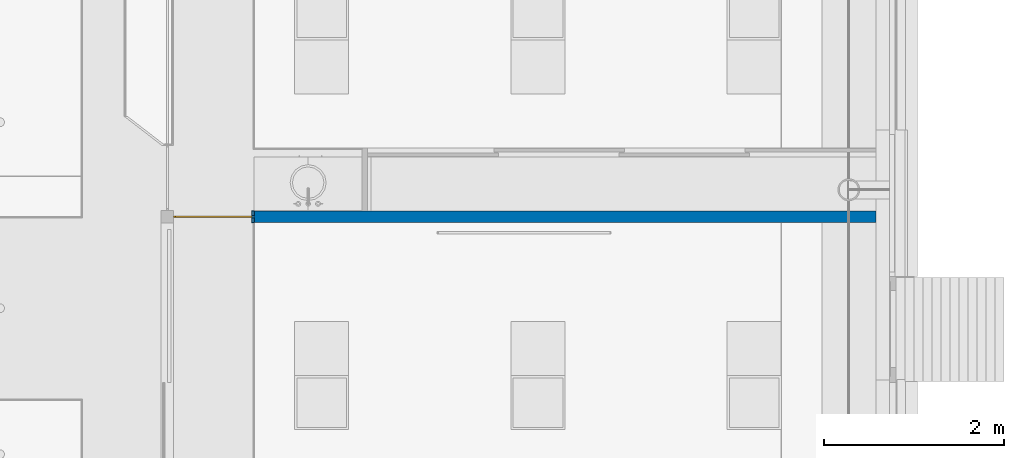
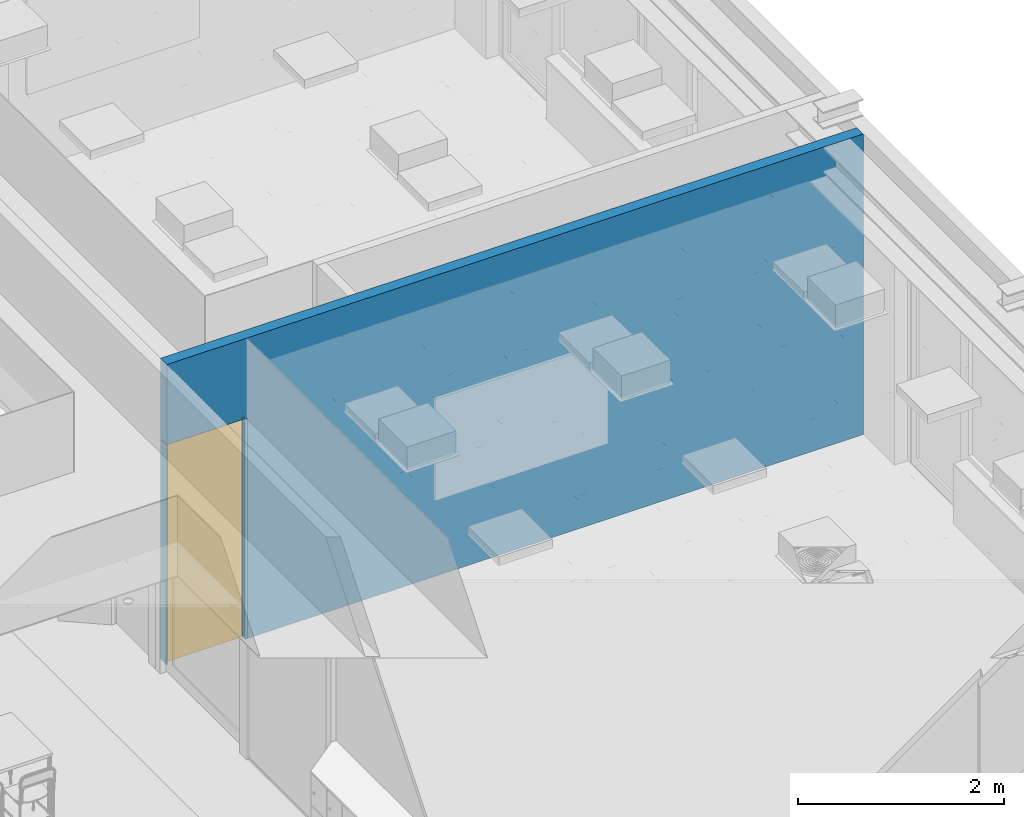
# One storey, part 63 of 347: 2 building element parts, 1 wall, 1 window, 2 openings, 1 element without a shape of its own.
"""IFC2X3 building model written with IfcOpenShell, lengths in millimetres."""

import ifcopenshell
import ifcopenshell.guid

model = None  # the IFC model being written
_history = None  # IfcOwnerHistory: only IFC2X3 demands one
_inside = {}  # id of a spatial element -> (the spatial element, [elements in it])
_under = {}  # id of a project, library or spatial element -> (it, [spatial elements below it])
_declared = {}  # id of a project -> (the project, [libraries it declares])
_typed = {}  # id of a type object -> (the type object, [elements of that type])
_made_of = {}  # id of a material, layer set ... -> (it, [elements and type objects made of it])


def new_model(schema):
    """Start an empty IFC model of exactly this schema.

    Asked for "IFC4X3", IfcOpenShell would pick the latest addendum, in which some entities
    have other attributes; the version numbers below select the first issue.
    IFC2X3 requires an IfcOwnerHistory on every rooted entity: one is made here for all.
    """
    global model, _history
    if schema == "IFC4X3":
        model = ifcopenshell.file(schema_version=(4, 3, 0, 0))
    else:
        model = ifcopenshell.file(schema=schema)
    _inside.clear()
    _under.clear()
    _declared.clear()
    _typed.clear()
    _made_of.clear()
    _history = None
    if model.schema == "IFC2X3":
        org = make("IfcOrganization", Name="unknown")
        user = make(
            "IfcPersonAndOrganization",
            ThePerson=make("IfcPerson", FamilyName="unknown"),
            TheOrganization=org,
        )
        app = make(
            "IfcApplication",
            ApplicationDeveloper=org,
            Version="unknown",
            ApplicationFullName="unknown",
            ApplicationIdentifier="unknown",
        )
        _history = make(
            "IfcOwnerHistory",
            OwningUser=user,
            OwningApplication=app,
            ChangeAction="ADDED",
            CreationDate=0,
        )
    return model


def make(cls, **values):
    """One entity of the class cls with the attributes given. An attribute that is None is left unset."""
    return model.create_entity(
        cls, **{name: value for name, value in values.items() if value is not None}
    )


def entity(cls, *values):
    """Any entity or typed value of the class cls, its attributes in the order of the schema. None: left unset."""
    e = model.create_entity(cls)
    for i, value in enumerate(values):
        if value is not None:
            e[i] = value
    return e


def rooted(cls, **values):
    """An entity with a GlobalId (a new one), such as an element, a storey or a relation."""
    return make(cls, GlobalId=ifcopenshell.guid.new(), OwnerHistory=_history, **values)


def si_unit(unit_type, name, prefix=None):
    """IfcSIUnit, for example si_unit("LENGTHUNIT", "METRE", prefix="MILLI")."""
    return make("IfcSIUnit", UnitType=unit_type, Prefix=prefix, Name=name)


def converted_unit(unit_type, name, factor, base, dimensions=None, offset=None):
    """IfcConversionBasedUnit, such as the inch: factor (a typed value) times the base unit."""
    return make(
        "IfcConversionBasedUnit"
        if offset is None
        else "IfcConversionBasedUnitWithOffset",
        ConversionOffset=offset,
        Dimensions=None
        if dimensions is None
        else entity("IfcDimensionalExponents", *dimensions),
        UnitType=unit_type,
        Name=name,
        ConversionFactor=make(
            "IfcMeasureWithUnit", ValueComponent=factor, UnitComponent=base
        ),
    )


def derived_unit(unit_type, elements):
    """IfcDerivedUnit: a product of units, each with its exponent."""
    return make(
        "IfcDerivedUnit",
        Elements=[
            make("IfcDerivedUnitElement", Unit=unit, Exponent=power)
            for unit, power in elements
        ],
        UnitType=unit_type,
    )


def money_unit(currency):
    """IfcMonetaryUnit."""
    return make("IfcMonetaryUnit", Currency=currency)


def assignment(units):
    """IfcUnitAssignment: the units of a project."""
    return None if units is None else make("IfcUnitAssignment", Units=units)


def point(xyz):
    """IfcCartesianPoint."""
    return None if xyz is None else make("IfcCartesianPoint", Coordinates=xyz)


def direction(xyz):
    """IfcDirection."""
    return None if xyz is None else make("IfcDirection", DirectionRatios=xyz)


def frame(location, z_axis=None, x_axis=None):
    """IfcAxis2Placement3D, a coordinate frame: its origin and axes. An axis left out is left unset."""
    return make(
        "IfcAxis2Placement3D",
        Location=point(location),
        Axis=direction(z_axis),
        RefDirection=direction(x_axis),
    )


def origin_with_axes():
    """The frame at (0, 0, 0) with the z axis (0, 0, 1) and the x axis (1, 0, 0) written out."""
    return frame((0.0, 0.0, 0.0), z_axis=(0.0, 0.0, 1.0), x_axis=(1.0, 0.0, 0.0))


def place(relative_to, where):
    """IfcLocalPlacement: puts the frame where relative to a parent placement (None: the world)."""
    return make(
        "IfcLocalPlacement", PlacementRelTo=relative_to, RelativePlacement=where
    )


def context(
    kind, dimensions, precision=None, world=None, true_north=None, identifier=None
):
    """IfcGeometricRepresentationContext, for example the 3D "Model" context."""
    return make(
        "IfcGeometricRepresentationContext",
        ContextIdentifier=identifier,
        ContextType=kind,
        CoordinateSpaceDimension=dimensions,
        Precision=precision,
        WorldCoordinateSystem=world,
        TrueNorth=true_north,
    )


def subcontext(parent, identifier, kind, view, scale=None):
    """IfcGeometricRepresentationSubContext, for example "Body" below "Model"."""
    return make(
        "IfcGeometricRepresentationSubContext",
        ContextIdentifier=identifier,
        ContextType=kind,
        ParentContext=parent,
        TargetScale=scale,
        TargetView=view,
    )


def project(units=None, contexts=None):
    """IfcProject with its units and contexts."""
    return rooted(
        "IfcProject",
        Name="project",
        RepresentationContexts=contexts,
        UnitsInContext=assignment(units),
    )


def spatial(cls, under=None, at=None, **own):
    """A site, building, storey or space (cls), placed at a placement, below another one or the project."""
    s = rooted(cls, ObjectPlacement=at, **own)
    if under is not None:
        _under.setdefault(under.id(), (under, []))[1].append(s)
    return s


def faces_of(points, faces, orient=None, outer=None):
    """IfcFace entities. A face is a list of loops; a loop is a list of indices into points, from 0.

    orient and outer hold one flag for each loop. By default every Orientation is true, the
    first loop of a face is its IfcFaceOuterBound and the others are IfcFaceBound.
    """
    made = []
    for i, loops in enumerate(faces):
        bounds = []
        for j, loop in enumerate(loops):
            is_outer = j == 0 if outer is None else outer[i][j]
            bounds.append(
                make(
                    "IfcFaceOuterBound" if is_outer else "IfcFaceBound",
                    Bound=make("IfcPolyLoop", Polygon=[points[k] for k in loop]),
                    Orientation=True if orient is None else orient[i][j],
                )
            )
        made.append(make("IfcFace", Bounds=bounds))
    return made


def open_shell(faces, orient=None, outer=None):
    """The faces of one IfcOpenShell. surface_model builds it on its shared points."""
    return ("IfcOpenShell", faces, orient, outer)


def faceted_brep(points, faces, orient=None, outer=None, voids=None):
    """IfcFacetedBrep: a solid bounded by flat faces; with voids (closed shells), ...WithVoids."""
    shared = [point(p) for p in points]
    hull = make("IfcClosedShell", CfsFaces=faces_of(shared, faces, orient, outer))
    if voids is None:
        return make("IfcFacetedBrep", Outer=hull)
    return make(
        "IfcFacetedBrepWithVoids",
        Outer=hull,
        Voids=[
            make(cls, CfsFaces=faces_of(shared, fs, o, b)) for cls, fs, o, b in voids
        ],
    )


def surface_model(cls, points, shells):
    """IfcFaceBasedSurfaceModel or IfcShellBasedSurfaceModel (cls): surfaces that need not close."""
    shared = [point(p) for p in points]
    made = [make(c, CfsFaces=faces_of(shared, fs, o, b)) for c, fs, o, b in shells]
    if cls == "IfcFaceBasedSurfaceModel":
        return make(cls, FbsmFaces=made)
    return make(cls, SbsmBoundary=made)


def shape(context_of_items, identifier, shape_type, items):
    """IfcShapeRepresentation: the items that make up one representation, for example the "Body"."""
    return make(
        "IfcShapeRepresentation",
        ContextOfItems=context_of_items,
        RepresentationIdentifier=identifier,
        RepresentationType=shape_type,
        Items=items,
    )


def source(mapping_origin, context_of_items, identifier, shape_type, items):
    """IfcRepresentationMap: a shape defined once, which mapped items show again and again."""
    return make(
        "IfcRepresentationMap",
        MappingOrigin=mapping_origin,
        MappedRepresentation=shape(context_of_items, identifier, shape_type, items),
    )


def transform(
    local_origin,
    x_axis=None,
    y_axis=None,
    z_axis=None,
    scale=None,
    scale2=None,
    scale3=None,
    uniform=True,
):
    """IfcCartesianTransformationOperator3D, or its non-uniform kind. x_axis, y_axis, z_axis: its Axis1, 2, 3."""
    if uniform:
        return make(
            "IfcCartesianTransformationOperator3D",
            Axis1=direction(x_axis),
            Axis2=direction(y_axis),
            LocalOrigin=point(local_origin),
            Scale=scale,
            Axis3=direction(z_axis),
        )
    return make(
        "IfcCartesianTransformationOperator3DnonUniform",
        Axis1=direction(x_axis),
        Axis2=direction(y_axis),
        LocalOrigin=point(local_origin),
        Scale=scale,
        Axis3=direction(z_axis),
        Scale2=scale2,
        Scale3=scale3,
    )


def mapped(mapping_source, mapping_target):
    """IfcMappedItem: shows the shape of a source again, moved by a transform."""
    return make(
        "IfcMappedItem", MappingSource=mapping_source, MappingTarget=mapping_target
    )


def material(Name=None, Category=None):
    """IfcMaterial."""
    return make("IfcMaterial", Name=Name, Category=Category)


def made_of(thing, what):
    """Note that an element or type object is made of a material, layer set ...; save() writes the relation."""
    if what is not None:
        _made_of.setdefault(what.id(), (what, []))[1].append(thing)
    return thing


def type_object(cls, material=None, **own):
    """A type object (cls), such as IfcWallType, which elements share."""
    return made_of(rooted(cls, **own), material)


def type_shapes(of_type, sources):
    """Give a type object the sources (RepresentationMaps) that its elements show as mapped items."""
    of_type.RepresentationMaps = sources


def element(
    cls,
    number,
    at=None,
    inside=None,
    cuts=None,
    type_object=None,
    material=None,
    context=None,
    identifier="Body",
    shape_type=None,
    held_by="IfcProductDefinitionShape",
    body=None,
    shapes=None,
    **own,
):
    """One element of the class cls, such as IfcWall. Its Tag is "e" and its number.

    at: its placement. inside: the storey or other place that contains it. cuts: it is an
    opening in that element (IfcRelVoidsElement). A single representation is given by context,
    identifier, shape_type and body (its items); several are given by shapes. held_by: the class
    of the entity that holds the representations. save() writes the other relations.
    """
    e = rooted(cls, Tag="e%d" % number, ObjectPlacement=at, **own)
    if body is not None:
        shapes = [shape(context, identifier, shape_type, body)]
    if shapes is not None:
        e.Representation = make(held_by, Representations=shapes)
    if inside is not None:
        _inside.setdefault(inside.id(), (inside, []))[1].append(e)
    if cuts is not None:
        rooted(
            "IfcRelVoidsElement", RelatingBuildingElement=cuts, RelatedOpeningElement=e
        )
    if type_object is not None:
        _typed.setdefault(type_object.id(), (type_object, []))[1].append(e)
    return made_of(e, material)


def fill(opening, filler):
    """IfcRelFillsElement: the door or window that sits in an opening."""
    return rooted(
        "IfcRelFillsElement",
        RelatingOpeningElement=opening,
        RelatedBuildingElement=filler,
    )


def aggregate(whole, parts):
    """IfcRelAggregates: a whole, such as a stair, and the parts it consists of."""
    return rooted("IfcRelAggregates", RelatingObject=whole, RelatedObjects=parts)


def save(model, path):
    """Write the relations noted so far, then the file.

    IfcRelAggregates (storeys below a building ...), IfcRelContainedInSpatialStructure (elements
    in a storey), IfcRelDefinesByType, IfcRelAssociatesMaterial and IfcRelDeclares: one each for
    every whole, place, type object, material and project.
    """
    for whole, parts in _under.values():
        aggregate(whole, parts)
    for where, things in _inside.values():
        rooted(
            "IfcRelContainedInSpatialStructure",
            RelatedElements=things,
            RelatingStructure=where,
        )
    for kind, things in _typed.values():
        rooted("IfcRelDefinesByType", RelatedObjects=things, RelatingType=kind)
    for what, things in _made_of.values():
        rooted("IfcRelAssociatesMaterial", RelatedObjects=things, RelatingMaterial=what)
    for by, libraries in _declared.values():
        rooted("IfcRelDeclares", RelatingContext=by, RelatedDefinitions=libraries)
    model.write(path)


model = new_model("IFC2X3")

# Units and contexts
model_context = context("Model", 3, precision=0.01, world=origin_with_axes(), true_north=direction((0.0, 1.0)))
plan_context = context("Plan", 3, precision=0.01, world=origin_with_axes(), true_north=direction((0.0, 1.0)))
body_context = subcontext(model_context, "Body", "Model", "MODEL_VIEW")
ifc_project = project(units=[si_unit("LENGTHUNIT", "METRE", prefix="MILLI"), si_unit("AREAUNIT", "SQUARE_METRE"), si_unit("VOLUMEUNIT", "CUBIC_METRE"), converted_unit("PLANEANGLEUNIT", "DEGREE", entity("IfcPlaneAngleMeasure", 0.0174532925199), si_unit("PLANEANGLEUNIT", "RADIAN"), dimensions=[0, 0, 0, 0, 0, 0, 0]), money_unit("EUR"), converted_unit("TIMEUNIT", "Year", entity("IfcTimeMeasure", 31556926.0), si_unit("TIMEUNIT", "SECOND"), dimensions=[0, 0, 1, 0, 0, 0, 0]), si_unit("MASSUNIT", "GRAM", prefix="KILO"), si_unit("THERMODYNAMICTEMPERATUREUNIT", "DEGREE_CELSIUS"), si_unit("LUMINOUSINTENSITYUNIT", "LUMEN"), si_unit("ENERGYUNIT", "JOULE", prefix="MEGA"), derived_unit("THERMALCONDUCTANCEUNIT", [(si_unit("POWERUNIT", "WATT"), 1), (si_unit("LENGTHUNIT", "METRE"), -1), (si_unit("THERMODYNAMICTEMPERATUREUNIT", "KELVIN"), -1)]), derived_unit("SPECIFICHEATCAPACITYUNIT", [(si_unit("ENERGYUNIT", "JOULE"), 1), (si_unit("MASSUNIT", "GRAM", prefix="KILO"), -1), (si_unit("THERMODYNAMICTEMPERATUREUNIT", "KELVIN"), -1)]), derived_unit("MASSDENSITYUNIT", [(si_unit("MASSUNIT", "GRAM", prefix="KILO"), 1), (si_unit("VOLUMEUNIT", "CUBIC_METRE"), -1)])], contexts=[model_context, plan_context])

# Site, building, storey
site_placement = place(None, origin_with_axes())
site = spatial("IfcSite", under=ifc_project, at=site_placement, Name="Site", CompositionType="ELEMENT")
building_placement = place(site_placement, origin_with_axes())
building = spatial("IfcBuilding", under=site, at=building_placement, Name="Naam gebouw", CompositionType="ELEMENT")
storey_placement = place(building_placement, origin_with_axes())
storey = spatial("IfcBuildingStorey", under=building, at=storey_placement, Name="begane grond", CompositionType="ELEMENT", Elevation=0.0)

# Wall, openings, windows, building element parts
ifc_material_1 = material(Name="ALG - LICHTE SCHEIDINGSWAND")
wall_type = type_object("IfcWallType", Name="ALG LSW 125 125", PredefinedType="NOTDEFINED")
wall_placement = place(storey_placement, frame((55875.0, 27975.0, 0.0), z_axis=(0.0, 0.0, 1.0), x_axis=(-1.0, 0.0, 0.0)))
wall = element("IfcWall", 1, at=wall_placement, inside=storey, type_object=wall_type, material=ifc_material_1, Name="22_GF 125 ECO DGS/2.75.2A", context=body_context, shape_type="Brep", body=[
    faceted_brep([(6900.0, -62.5, 0.0), (6900.0, 62.5, 0.0), (6900.0, 62.5, 2600.0), (6900.0, -62.5, 2600.0), (-5.65420990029e-05, 62.5, 0.0), (-5.65420990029e-05, -62.5, 0.0), (6900.0, 62.5, 2612.0), (-4.82031623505e-05, 62.5, 3560.0), (7800.0, 62.5, 3560.00000003), (7800.0, 62.5, 2612.0), (6900.0, -62.5, 2612.0), (7800.0, -62.5, 2612.0), (7800.0, -62.5, 3560.00000003), (-4.82601691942e-05, -62.5, 3560.0)], [[[0, 1, 2, 3]], [[4, 1, 0, 5]], [[6, 2, 1, 4, 7, 8, 9]], [[3, 2, 6, 10]], [[11, 12, 13, 5, 0, 3, 10]], [[13, 7, 4, 5]], [[8, 7, 13, 12]], [[11, 9, 8, 12]], [[11, 10, 6, 9]]]),
    faceted_brep([(7800.0, 62.5, 2600.0), (7793.0, 62.5, 2600.0), (7793.0, -62.5, 2600.0), (7800.0, -62.5, 2600.0), (7800.0, 62.5, 0.0), (7793.0, 62.5, 0.0), (7793.0, -62.5, 0.0), (7800.0, -62.5, 0.0)], [[[0, 1, 2, 3]], [[4, 5, 1, 0]], [[2, 1, 5, 6]], [[2, 6, 7, 3]], [[0, 3, 7, 4]], [[6, 5, 4, 7]]]),
])
opening_1_placement = place(wall_placement, frame((7346.5, 0.0, 0.0), z_axis=(0.0, 0.0, 1.0), x_axis=(1.0, 0.0, 0.0)))
opening_1 = element("IfcOpeningElement", 2, at=opening_1_placement, cuts=wall, Name="32_10.02", context=body_context, shape_type="Brep", body=[
    faceted_brep([(-446.5, 187.5, 2600.0), (-446.5, 187.5, 0.0), (-446.5, -10.0, 0.0), (-446.5, -10.0, 2600.0), (446.5, 187.5, 2600.0), (446.5, 187.5, 0.0), (446.5, -10.0, 0.0), (446.5, -10.0, 2600.0)], [[[0, 1, 2, 3]], [[0, 4, 5, 1]], [[1, 5, 6, 2]], [[3, 2, 6, 7]], [[4, 0, 3, 7]], [[5, 4, 7, 6]]]),
    faceted_brep([(-446.5, -187.5, 0.0), (-446.5, -187.5, 2600.0), (-446.5, -10.0, 2600.0), (-446.5, -10.0, 0.0), (446.5, -187.5, 0.0), (446.5, -187.5, 2600.0), (446.5, -10.0, 2600.0), (446.5, -10.0, 0.0)], [[[0, 1, 2, 3]], [[0, 4, 5, 1]], [[1, 5, 6, 2]], [[3, 2, 6, 7]], [[4, 0, 3, 7]], [[5, 4, 7, 6]]]),
])
opening_2_placement = place(wall_placement, frame((6912.5, 0.0, 0.0), z_axis=(0.0, 0.0, 1.0), x_axis=(1.0, 0.0, 0.0)))
opening_2 = element("IfcOpeningElement", 3, at=opening_2_placement, cuts=wall, Name="31_-", context=body_context, shape_type="Brep", body=[
    faceted_brep([(12.5, 187.5, 0.0), (12.5, 187.5, 2600.0), (12.5, 12.5, 2600.0), (12.5, 12.5, 0.0), (-12.5, 187.5, 0.0), (-12.5, 187.5, 2600.0), (-12.5, 12.5, 2600.0), (-12.5, 12.5, 0.0)], [[[0, 1, 2, 3]], [[0, 4, 5, 1]], [[1, 5, 6, 2]], [[3, 2, 6, 7]], [[4, 0, 3, 7]], [[5, 4, 7, 6]]]),
    faceted_brep([(12.5, -162.5, 2600.0), (12.5, -162.5, 0.0), (12.5, 12.5, 0.0), (12.5, 12.5, 2600.0), (-12.5, -162.5, 2600.0), (-12.5, -162.5, 0.0), (-12.5, 12.5, 0.0), (-12.5, 12.5, 2600.0)], [[[0, 1, 2, 3]], [[0, 4, 5, 1]], [[1, 5, 6, 2]], [[3, 2, 6, 7]], [[4, 0, 3, 7]], [[5, 4, 7, 6]]]),
])
window_style_1 = type_object("IfcWindowStyle", Name="R1 25", ConstructionType="NOTDEFINED", OperationType="SINGLE_PANEL", ParameterTakesPrecedence=False, Sizeable=False)
shared_shape_1 = source(origin_with_axes(), body_context, "Body", "SurfaceModel", [
    faceted_brep([(-426.5, -20.0, 2580.0), (-426.5, 0.0, 2580.0), (-446.5, 0.0, 2580.0), (-446.5, -20.0, 2580.0), (-426.5, -20.0, 20.0), (-426.5, 0.0, 20.0), (-446.5, 0.0, 20.0), (-446.5, -20.0, 20.0)], [[[0, 1, 2, 3]], [[4, 5, 1, 0]], [[1, 5, 6, 2]], [[3, 2, 6, 7]], [[0, 3, 7, 4]], [[7, 6, 5, 4]]]),
    faceted_brep([(426.5, -20.0, 20.0), (426.5, 0.0, 20.0), (446.5, 0.0, 20.0), (446.5, -20.0, 20.0), (426.5, -20.0, 2580.0), (426.5, 0.0, 2580.0), (446.5, 0.0, 2580.0), (446.5, -20.0, 2580.0)], [[[0, 1, 2, 3]], [[4, 5, 1, 0]], [[1, 5, 6, 2]], [[3, 2, 6, 7]], [[0, 3, 7, 4]], [[7, 6, 5, 4]]]),
    faceted_brep([(-426.5, -20.0, 20.0), (-426.5, 0.0, 20.0), (-446.5, 0.0, 20.0), (-446.5, -20.0, 20.0), (426.5, -20.0, 20.0), (426.5, 0.0, 20.0), (446.5, 0.0, 20.0), (446.5, 0.0, 0.0), (-446.5, 0.0, 0.0), (-446.5, -20.0, 0.0), (446.5, -20.0, 0.0), (446.5, -20.0, 20.0)], [[[0, 1, 2, 3]], [[4, 5, 1, 0]], [[1, 5, 6, 7, 8, 2]], [[3, 2, 8, 9]], [[0, 3, 9, 10, 11, 4]], [[11, 6, 5, 4]], [[10, 7, 6, 11]], [[9, 8, 7, 10]]]),
    faceted_brep([(426.5, -20.0, 2580.0), (426.5, 0.0, 2580.0), (446.5, 0.0, 2580.0), (446.5, -20.0, 2580.0), (-426.5, -20.0, 2580.0), (-426.5, 0.0, 2580.0), (-446.5, 0.0, 2580.0), (-446.5, 0.0, 2600.0), (446.5, 0.0, 2600.0), (446.5, -20.0, 2600.0), (-446.5, -20.0, 2600.0), (-446.5, -20.0, 2580.0)], [[[0, 1, 2, 3]], [[4, 5, 1, 0]], [[1, 5, 6, 7, 8, 2]], [[3, 2, 8, 9]], [[0, 3, 9, 10, 11, 4]], [[11, 6, 5, 4]], [[10, 7, 6, 11]], [[9, 8, 7, 10]]]),
    surface_model("IfcShellBasedSurfaceModel", [(-426.5, -20.0, 20.0), (426.5, -20.0, 20.0), (426.5, -20.0, 2580.0), (-426.5, -20.0, 2580.0)], [open_shell([[[0, 1, 2, 3]]])]),
    surface_model("IfcShellBasedSurfaceModel", [(-426.5, 0.0, 20.0), (-426.5, 0.0, 2580.0), (426.5, 0.0, 2580.0), (426.5, 0.0, 20.0)], [open_shell([[[0, 1, 2, 3]]])]),
])
type_shapes(window_style_1, [shared_shape_1])
window_1_placement = place(opening_1_placement, frame((446.5, 0.0, 0.0), z_axis=(0.0, 0.0, 1.0), x_axis=(-1.0, 0.0, 0.0)))
window_1 = element("IfcWindow", 4, at=window_1_placement, inside=storey, type_object=window_style_1, Name="32_10.02", ObjectType="WINDOW", OverallHeight=2600.0, OverallWidth=893.0, context=body_context, shape_type="MappedRepresentation", body=[
    mapped(shared_shape_1, transform((446.5, 10.0, 0.0))),
])
fill(opening_1, window_1)
window_style_2 = type_object("IfcWindowStyle", Name="32 glaslatten 125mm wand", ConstructionType="NOTDEFINED", OperationType="NOTDEFINED", ParameterTakesPrecedence=False, Sizeable=False)
window_2_placement = place(opening_2_placement, frame((-12.5, 0.0, 0.0), z_axis=(0.0, 0.0, 1.0), x_axis=(1.0, 0.0, 0.0)))
window_2 = element("IfcWindow", 5, at=window_2_placement, inside=storey, type_object=window_style_2, Name="31_-", ObjectType="WINDOW", OverallHeight=2600.0, OverallWidth=25.0)
fill(opening_2, window_2)
ifc_material_2 = material(Name="32 Hout binnenkozijn")
shared_shape_2 = source(origin_with_axes(), body_context, "Body", "Brep", [
    faceted_brep([(-12.5, -77.0, 2600.0), (-12.5, -77.0, 0.0), (12.5, -77.0, 0.0), (12.5, -77.0, 2600.0), (-12.5, -25.0, 2600.0), (-12.5, -25.0, 0.0), (12.5, -25.0, 0.0), (12.5, -25.0, 2600.0)], [[[0, 1, 2, 3]], [[4, 5, 1, 0]], [[1, 5, 6, 2]], [[3, 2, 6, 7]], [[0, 3, 7, 4]], [[7, 6, 5, 4]]]),
    faceted_brep([(-12.5, 0.0, 2600.0), (-12.5, 0.0, 0.0), (12.5, 0.0, 0.0), (12.5, 0.0, 2600.0), (-12.5, 52.0, 2600.0), (-12.5, 52.0, 0.0), (12.5, 52.0, 0.0), (12.5, 52.0, 2600.0)], [[[0, 1, 2, 3]], [[4, 5, 1, 0]], [[1, 5, 6, 2]], [[3, 2, 6, 7]], [[0, 3, 7, 4]], [[7, 6, 5, 4]]]),
])
building_element_part_1_placement = place(window_2_placement, origin_with_axes())
building_element_part_1 = element("IfcBuildingElementPart", 6, at=building_element_part_1_placement, material=ifc_material_2, Name="32 Hout binnenkozijn", context=body_context, shape_type="MappedRepresentation", body=[
    mapped(shared_shape_2, transform((12.5, 12.5, 0.0))),
])
ifc_material_3 = material(Name="Membraan - rubber")
shared_shape_3 = source(origin_with_axes(), body_context, "Body", "Brep", [
    faceted_brep([(-12.5, -25.0, 2600.0), (-12.5, -25.0, 0.0), (12.5, -25.0, 0.0), (12.5, -25.0, 2600.0), (-12.5, 0.0, 2600.0), (-12.5, 0.0, 0.0), (12.5, 0.0, 0.0), (12.5, 0.0, 2600.0)], [[[0, 1, 2, 3]], [[4, 5, 1, 0]], [[1, 5, 6, 2]], [[3, 2, 6, 7]], [[0, 3, 7, 4]], [[7, 6, 5, 4]]]),
])
building_element_part_2_placement = place(window_2_placement, origin_with_axes())
building_element_part_2 = element("IfcBuildingElementPart", 7, at=building_element_part_2_placement, material=ifc_material_3, Name="Membraan - rubber", context=body_context, shape_type="MappedRepresentation", body=[
    mapped(shared_shape_3, transform((12.5, 12.5, 0.0))),
])
aggregate(window_2, [building_element_part_1, building_element_part_2])

save(model, "model.ifc")
